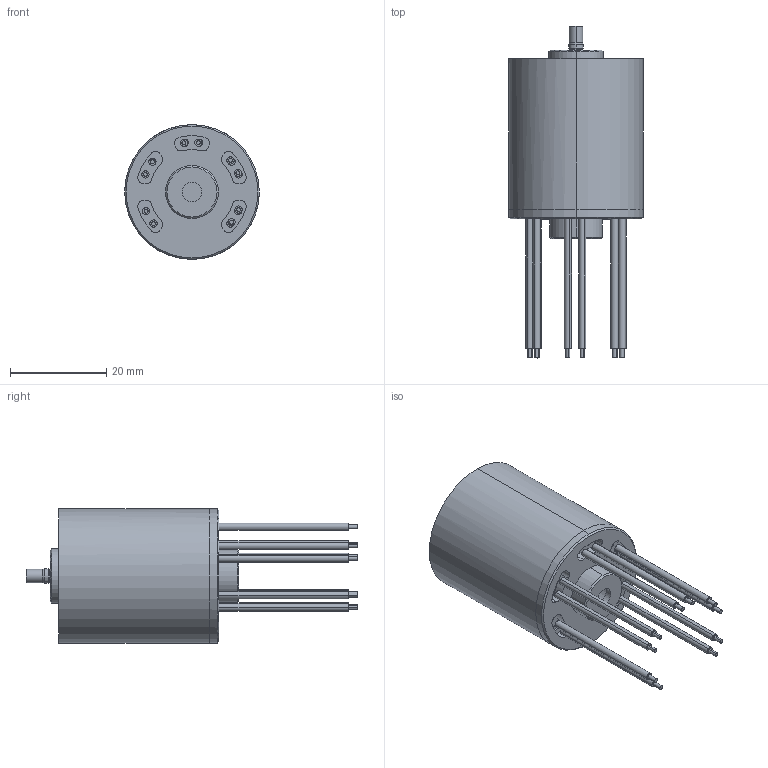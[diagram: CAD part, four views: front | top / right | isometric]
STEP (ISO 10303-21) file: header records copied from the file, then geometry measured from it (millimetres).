
FILE_DESCRIPTION((''),'2;1');
FILE_NAME('2845','2026-09-22T16:05:53',('pc'),(''),'CREO PARAMETRIC BY PTC INC, 2018050','CREO PARAMETRIC BY PTC INC, 2018050','');
FILE_SCHEMA(('CONFIG_CONTROL_DESIGN','GEOMETRIC_VALIDATION_PROPERTIES_MIM'));
Length unit declared in the file: millimetre
Products named in the file (1): 2845
Bounding box: 28 x 69 x 28 mm (x, y, z)
Volume: 20463.2 mm3; surface area: 8853.9 mm2
Topology: 11 solids, 17 shells, 253 faces, 584 edges, 402 vertices
Faces by surface type: cylinder 148, plane 81, cone 22, torus 2
Entity records: 7615 total; most frequent: DIRECTION 1464, CARTESIAN_POINT 1241, ORIENTED_EDGE 1168, AXIS2_PLACEMENT_3D 627, EDGE_CURVE 584, VERTEX_POINT 402, CIRCLE 374, EDGE_LOOP 302
